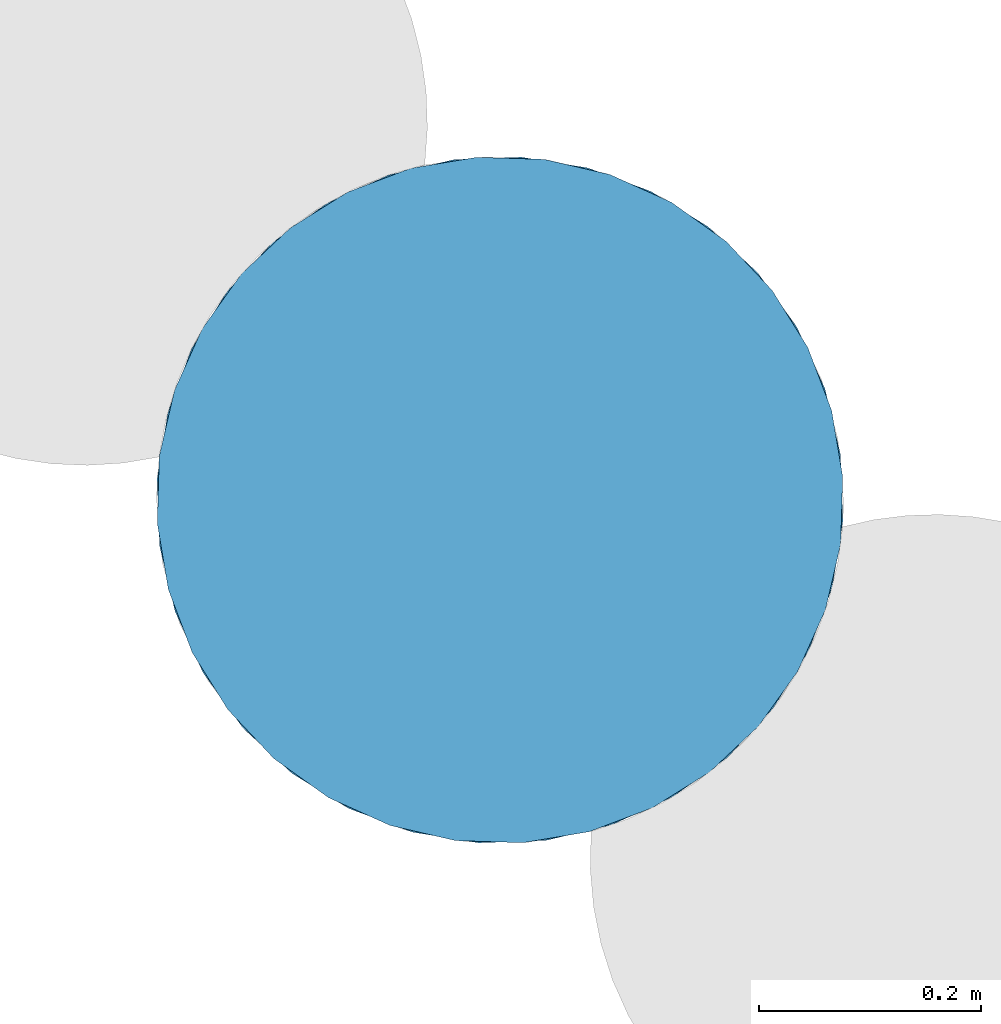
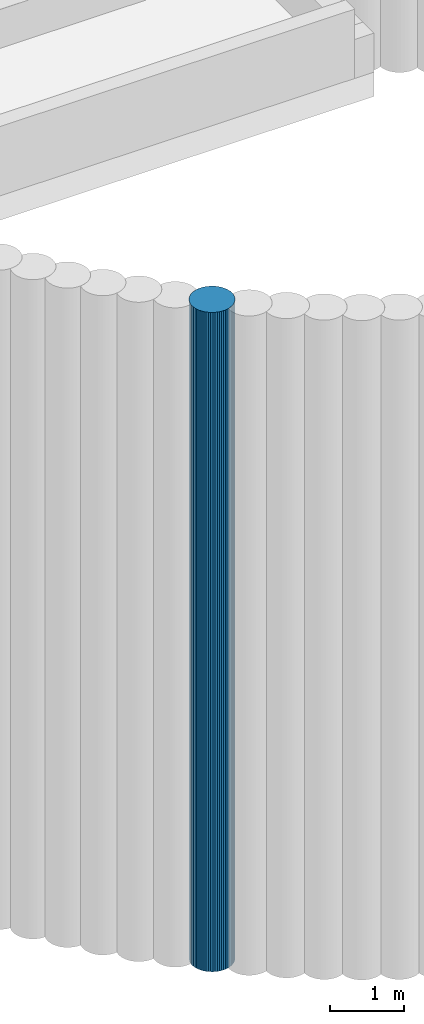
# One storey, part 16 of 16: 2 slabs.
"""IFC2X3 building model written with IfcOpenShell, lengths in centimetres."""

from ifc_helpers import new_model, entity, si_unit, converted_unit, derived_unit, direction, frame, origin, place, context, subcontext, project, spatial, face_set, surface_model, material, element, save


model = new_model("IFC2X3")

# Units and contexts
model_context = context("Model", 3, precision=0.001, world=origin(), true_north=direction((6.12303176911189e-17, 1.0)))
body_context = subcontext(model_context, "Body", "Model", "MODEL_VIEW")
ifc_project = project(units=[si_unit("LENGTHUNIT", "METRE", prefix="CENTI"), si_unit("AREAUNIT", "SQUARE_METRE"), si_unit("VOLUMEUNIT", "CUBIC_METRE"), converted_unit("PLANEANGLEUNIT", "DEGREE", entity("IfcRatioMeasure", 0.0174532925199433), si_unit("PLANEANGLEUNIT", "RADIAN"), dimensions=[0, 0, 0, 0, 0, 0, 0]), si_unit("MASSUNIT", "GRAM", prefix="KILO"), derived_unit("MASSDENSITYUNIT", [(si_unit("MASSUNIT", "GRAM", prefix="KILO"), 1), (si_unit("LENGTHUNIT", "METRE"), -3)]), si_unit("TIMEUNIT", "SECOND"), si_unit("FREQUENCYUNIT", "HERTZ"), si_unit("THERMODYNAMICTEMPERATUREUNIT", "DEGREE_CELSIUS"), derived_unit("THERMALTRANSMITTANCEUNIT", [(si_unit("MASSUNIT", "GRAM", prefix="KILO"), 1), (si_unit("THERMODYNAMICTEMPERATUREUNIT", "KELVIN"), -1), (si_unit("TIMEUNIT", "SECOND"), -3)]), derived_unit("VOLUMETRICFLOWRATEUNIT", [(si_unit("LENGTHUNIT", "METRE"), 3), (si_unit("TIMEUNIT", "SECOND"), -1)]), si_unit("ELECTRICCURRENTUNIT", "AMPERE"), si_unit("ELECTRICVOLTAGEUNIT", "VOLT"), si_unit("POWERUNIT", "WATT"), si_unit("FORCEUNIT", "NEWTON", prefix="KILO"), si_unit("ILLUMINANCEUNIT", "LUX"), si_unit("LUMINOUSFLUXUNIT", "LUMEN"), si_unit("LUMINOUSINTENSITYUNIT", "CANDELA"), derived_unit("USERDEFINED", [(si_unit("MASSUNIT", "GRAM", prefix="KILO"), -1), (si_unit("LENGTHUNIT", "METRE"), -2), (si_unit("TIMEUNIT", "SECOND"), 3), (si_unit("LUMINOUSFLUXUNIT", "LUMEN"), 1)]), derived_unit("LINEARVELOCITYUNIT", [(si_unit("LENGTHUNIT", "METRE"), 1), (si_unit("TIMEUNIT", "SECOND"), -1)]), si_unit("PRESSUREUNIT", "PASCAL"), derived_unit("USERDEFINED", [(si_unit("LENGTHUNIT", "METRE"), -2), (si_unit("MASSUNIT", "GRAM", prefix="KILO"), 1), (si_unit("TIMEUNIT", "SECOND"), -2)])], contexts=[model_context])

# Site, building, storey
site_placement = place(None, origin())
site = spatial("IfcSite", under=ifc_project, at=site_placement, Name="Default", CompositionType="ELEMENT")
building_placement = place(site_placement, origin())
building = spatial("IfcBuilding", under=site, at=building_placement, CompositionType="ELEMENT")
storey_placement = place(building_placement, frame((0.0, 0.0, -984.0)))
storey = spatial("IfcBuildingStorey", under=building, at=storey_placement, Name="Niveau Fond de fosse", CompositionType="ELEMENT", Elevation=-984.000000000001)

# Slabs
ifc_material = material(Name="Maçonnerie - Béton coulé sur place")
slab_1_placement = place(storey_placement, frame((-741.557086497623, -849.10459037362, -300.0)))
element("IfcSlab", 1, at=slab_1_placement, inside=storey, material=ifc_material, Name="Pieu béton - JBTP:600mm 2", ObjectType="Pieu béton - JBTP:600mm 2", PredefinedType="BASESLAB", context=body_context, shape_type="SurfaceModel", body=[
    surface_model("IfcFaceBasedSurfaceModel", [(24.5607609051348, 68.0363050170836, 0.0), (20.1326364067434, 63.8742857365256, 0.0), (16.6015667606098, 58.9283542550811, 0.0), (14.103248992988, 53.3885799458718, 0.0), (12.733692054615, 47.4678532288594, 0.0), (12.5455272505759, 41.3937043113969, 0.0), (13.5459856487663, 35.3995593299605, 0.0), (15.696620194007, 29.7157699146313, 0.0), (18.9147832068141, 24.5607609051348, 0.0), (23.0768024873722, 20.1326364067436, 0.0), (28.0227339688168, 16.6015667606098, 0.0), (33.562508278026, 14.1032489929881, 0.0), (39.4832349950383, 12.7336920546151, 0.0), (45.5573839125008, 12.5455272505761, 0.0), (51.5515288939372, 13.5459856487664, 0.0), (57.2353183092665, 15.696620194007, 0.0), (62.3903273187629, 18.9147832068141, 0.0), (66.8184518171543, 23.0768024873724, 0.0), (70.349521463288, 28.0227339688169, 0.0), (72.8478392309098, 33.5625082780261, 0.0), (74.2173961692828, 39.4832349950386, 0.0), (74.4055609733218, 45.5573839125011, 0.0), (73.4051025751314, 51.5515288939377, 0.0), (71.2544680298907, 57.2353183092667, 0.0), (68.0363050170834, 62.3903273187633, 0.0), (63.8742857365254, 66.8184518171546, 0.0), (58.928354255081, 70.3495214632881, 0.0), (53.3885799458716, 72.8478392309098, 0.0), (47.4678532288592, 74.2173961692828, 0.0), (41.3937043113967, 74.4055609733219, 0.0), (35.3995593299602, 73.4051025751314, 0.0), (29.715769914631, 71.2544680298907, 0.0), (16.6015669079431, 58.9283536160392, 1084.0), (20.1326367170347, 63.8742854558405, 1084.0), (24.5607603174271, 68.0363057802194, 1084.0), (14.1032492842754, 53.3885800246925, 1084.0), (13.5459859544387, 35.3995599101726, 1084.0), (12.5455275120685, 41.3937041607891, 1084.0), (12.7336924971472, 47.4678531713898, 1084.0), (15.6966205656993, 29.7157701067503, 1084.0), (18.9147824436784, 24.5607603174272, 1084.0), (33.5625081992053, 14.1032492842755, 1084.0), (28.0227346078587, 16.6015669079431, 1084.0), (23.0768027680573, 20.1326367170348, 1084.0), (39.483235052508, 12.7336924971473, 1084.0), (57.2353181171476, 15.6966205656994, 1084.0), (51.5515283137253, 13.5459859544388, 1084.0), (45.5573840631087, 12.5455275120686, 1084.0), (62.3903279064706, 18.9147824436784, 1084.0), (70.3495213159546, 28.0227346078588, 1084.0), (66.818451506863, 23.0768027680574, 1084.0), (72.8478389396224, 33.5625081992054, 1084.0), (73.4051022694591, 51.5515283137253, 1084.0), (74.4055607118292, 45.5573840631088, 1084.0), (74.2173957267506, 39.4832350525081, 1084.0), (71.2544676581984, 57.2353181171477, 1084.0), (68.0363057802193, 62.3903279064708, 1084.0), (53.3885800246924, 72.8478389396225, 1084.0), (58.928353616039, 70.3495213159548, 1084.0), (63.8742854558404, 66.8184515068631, 1084.0), (47.4678531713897, 74.2173957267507, 1084.0), (29.7157701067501, 71.2544676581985, 1084.0), (35.3995599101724, 73.4051022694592, 1084.0), (41.393704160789, 74.4055607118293, 1084.0)], [face_set([[[0, 1, 2, 3, 4, 5, 6, 7, 8, 9, 10, 11, 12, 13, 14, 15, 16, 17, 18, 19, 20, 21, 22, 23, 24, 25, 26, 27, 28, 29, 30, 31]], [[1, 2, 32, 33]], [[34, 0, 1, 33]], [[2, 3, 35, 32]], [[5, 6, 36, 37]], [[4, 5, 37, 38]], [[3, 4, 38, 35]], [[6, 7, 39, 36]], [[40, 39, 7, 8]], [[10, 11, 41, 42]], [[9, 10, 42, 43]], [[11, 12, 44, 41]], [[14, 15, 45, 46]], [[13, 14, 46, 47]], [[12, 13, 47, 44]], [[15, 16, 48, 45]], [[43, 40, 8, 9]], [[17, 18, 49, 50]], [[16, 17, 50, 48]], [[18, 19, 51, 49]], [[21, 22, 52, 53]], [[20, 21, 53, 54]], [[19, 20, 54, 51]], [[22, 23, 55, 52]], [[56, 55, 23, 24]], [[26, 27, 57, 58]], [[25, 26, 58, 59]], [[27, 28, 60, 57]], [[30, 31, 61, 62]], [[29, 30, 62, 63]], [[28, 29, 63, 60]], [[31, 0, 34, 61]], [[59, 56, 24, 25]], [[48, 50, 49, 51, 54, 53, 52, 55, 56, 59, 58, 57, 60, 63, 62, 61, 34, 33, 32, 35, 38, 37, 36, 39, 40, 43, 42, 41, 44, 47, 46, 45]]])]),
])
slab_2_placement = place(storey_placement, frame((-735.971377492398, -843.51888136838, -300.0)))
element("IfcSlab", 2, at=slab_2_placement, inside=storey, material=ifc_material, Name="Pieu béton - JBTP:600mm 2", ObjectType="Pieu béton - JBTP:600mm 2", PredefinedType="BASESLAB", context=body_context, shape_type="SurfaceModel", body=[
    surface_model("IfcFaceBasedSurfaceModel", [(29.971707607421, 7.91812749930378, 0.0), (35.9710422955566, 6.94927541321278, 0.0), (42.044115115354, 7.16945168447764, 0.0), (47.9575412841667, 8.57019506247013, 0.0), (53.4840711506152, 11.0976757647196, 0.0), (58.4113232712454, 14.6547641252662, 0.0), (62.5499461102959, 19.1047632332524, 0.0), (65.7408947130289, 24.2766621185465, 0.0), (67.8615427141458, 29.971707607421, 0.0), (68.8303948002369, 35.9710422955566, 0.0), (68.6102185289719, 42.044115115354, 0.0), (67.2094751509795, 47.9575412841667, 0.0), (64.6819944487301, 53.4840711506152, 0.0), (61.1249060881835, 58.4113232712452, 0.0), (56.6749069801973, 62.5499461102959, 0.0), (51.5030080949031, 65.740894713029, 0.0), (45.8079626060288, 67.8615427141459, 0.0), (39.8086279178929, 68.8303948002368, 0.0), (33.7355550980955, 68.6102185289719, 0.0), (27.8221289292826, 67.2094751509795, 0.0), (22.2955990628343, 64.68199444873, 0.0), (17.3683469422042, 61.1249060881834, 0.0), (13.2297241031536, 56.674906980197, 0.0), (10.0387755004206, 51.5030080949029, 0.0), (7.91812749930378, 45.8079626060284, 0.0), (6.94927541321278, 39.8086279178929, 0.0), (7.16945168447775, 33.7355550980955, 0.0), (8.57019506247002, 27.8221289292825, 0.0), (11.0976757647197, 22.2955990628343, 0.0), (14.6547641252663, 17.3683469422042, 0.0), (19.1047632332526, 13.2297241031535, 0.0), (24.2766621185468, 10.0387755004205, 0.0), (42.0441155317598, 7.16945219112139, 1084.0), (35.9710423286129, 6.9492758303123, 1084.0), (29.9717073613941, 7.9181265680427, 1084.0), (47.9575410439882, 8.57019524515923, 1084.0), (62.5499454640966, 19.1047631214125, 1084.0), (58.4113232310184, 14.6547644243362, 1084.0), (53.4840709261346, 11.0976761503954, 1084.0), (65.7408943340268, 24.2766622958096, 1084.0), (67.8615436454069, 29.9717073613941, 1084.0), (67.2094749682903, 47.9575410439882, 1084.0), (68.6102180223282, 42.0441155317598, 1084.0), (68.8303943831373, 35.9710423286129, 1084.0), (64.6819940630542, 53.4840709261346, 1084.0), (51.5030079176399, 65.7408943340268, 1084.0), (56.6749070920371, 62.5499454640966, 1084.0), (61.1249057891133, 58.4113232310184, 1084.0), (45.8079628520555, 67.8615436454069, 1084.0), (33.7355546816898, 68.6102180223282, 1084.0), (39.8086278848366, 68.8303943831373, 1084.0), (27.8221291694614, 67.2094749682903, 1084.0), (13.229724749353, 56.6749070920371, 1084.0), (17.3683469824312, 61.1249057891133, 1084.0), (22.295599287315, 64.6819940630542, 1084.0), (10.0387758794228, 51.5030079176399, 1084.0), (7.9181265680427, 45.8079628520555, 1084.0), (8.57019524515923, 27.8221291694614, 1084.0), (7.16945219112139, 33.7355546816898, 1084.0), (6.9492758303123, 39.8086278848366, 1084.0), (11.0976761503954, 22.295599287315, 1084.0), (24.2766622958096, 10.0387758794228, 1084.0), (19.1047631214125, 13.229724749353, 1084.0), (14.6547644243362, 17.3683469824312, 1084.0)], [face_set([[[0, 1, 2, 3, 4, 5, 6, 7, 8, 9, 10, 11, 12, 13, 14, 15, 16, 17, 18, 19, 20, 21, 22, 23, 24, 25, 26, 27, 28, 29, 30, 31]], [[1, 2, 32, 33]], [[34, 0, 1, 33]], [[2, 3, 35, 32]], [[5, 6, 36, 37]], [[4, 5, 37, 38]], [[3, 4, 38, 35]], [[6, 7, 39, 36]], [[40, 39, 7, 8]], [[10, 11, 41, 42]], [[9, 10, 42, 43]], [[11, 12, 44, 41]], [[14, 15, 45, 46]], [[13, 14, 46, 47]], [[12, 13, 47, 44]], [[15, 16, 48, 45]], [[43, 40, 8, 9]], [[17, 18, 49, 50]], [[16, 17, 50, 48]], [[18, 19, 51, 49]], [[21, 22, 52, 53]], [[20, 21, 53, 54]], [[19, 20, 54, 51]], [[22, 23, 55, 52]], [[56, 55, 23, 24]], [[26, 27, 57, 58]], [[25, 26, 58, 59]], [[27, 28, 60, 57]], [[30, 31, 61, 62]], [[29, 30, 62, 63]], [[28, 29, 63, 60]], [[31, 0, 34, 61]], [[59, 56, 24, 25]], [[48, 50, 49, 51, 54, 53, 52, 55, 56, 59, 58, 57, 60, 63, 62, 61, 34, 33, 32, 35, 38, 37, 36, 39, 40, 43, 42, 41, 44, 47, 46, 45]]])]),
])

save(model, "model.ifc")
